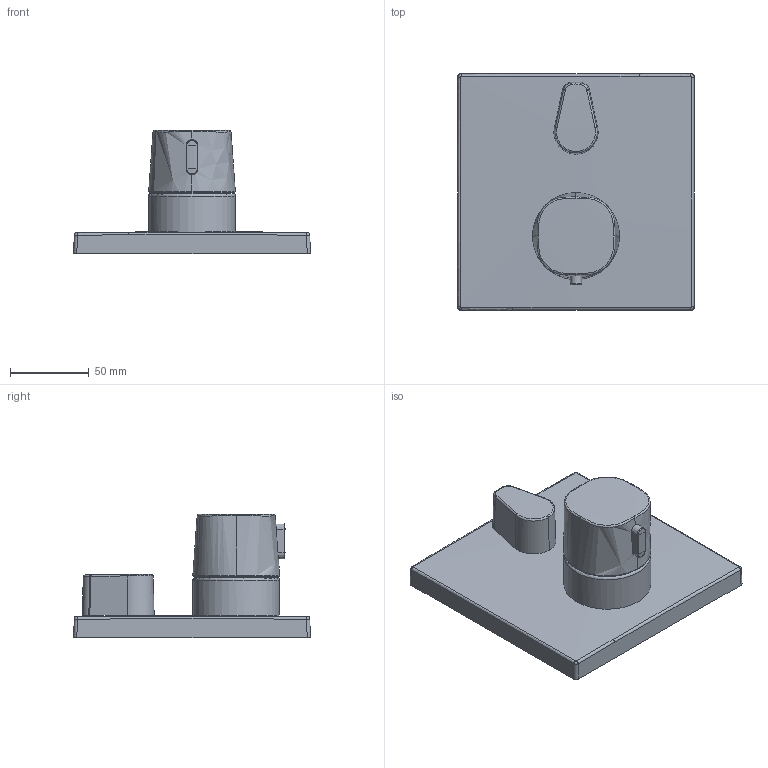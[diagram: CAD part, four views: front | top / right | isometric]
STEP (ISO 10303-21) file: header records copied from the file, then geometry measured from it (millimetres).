
FILE_DESCRIPTION (( 'STEP AP203' ), '1' );
FILE_NAME ('2098(2016)+81149562+2097(2016)+81139562.STEP', '2017-03-09T05:45:08', ( '' ), ( '' ), 'SwSTEP 2.0', 'SolidWorks 2016', '' );
FILE_SCHEMA (( 'CONFIG_CONTROL_DESIGN' ));
Length unit declared in the file: millimetre
Products named in the file (1): 2098(2016)+81149562+2097(2016)+81139562
Bounding box: 150 x 150 x 78.25 mm (x, y, z)
Volume: 480786.4 mm3; surface area: 68847 mm2
Topology: 1 solids, 1 shells, 79 faces, 184 edges, 112 vertices
Faces by surface type: bspline 36, plane 13, cylinder 13, torus 9, sphere 5, cone 3
Full cylindrical faces by diameter (mm): 24.194 x1, 44 x1, 55.1 x1
Entity records: 7873 total; most frequent: CARTESIAN_POINT 6356, ORIENTED_EDGE 350, DIRECTION 196, EDGE_CURVE 175, VERTEX_POINT 108, B_SPLINE_CURVE_WITH_KNOTS 98, EDGE_LOOP 89, FACE_OUTER_BOUND 84
